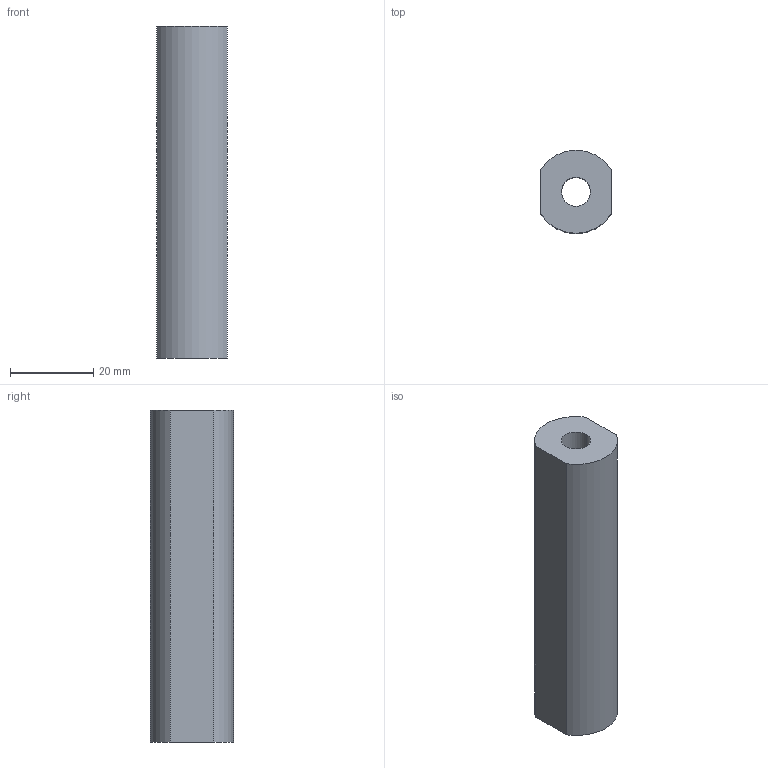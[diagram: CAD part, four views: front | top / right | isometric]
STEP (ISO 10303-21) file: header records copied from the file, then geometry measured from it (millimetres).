
FILE_DESCRIPTION (( 'STEP AP214' ), '1' );
FILE_NAME ('FGDT 80.step', '2017-04-05T07:36:58', ( '' ), ( '' ), 'SwSTEP 2.0', 'SolidWorks 2015', '' );
FILE_SCHEMA (( 'AUTOMOTIVE_DESIGN' ));
Length unit declared in the file: millimetre
Products named in the file (1): FGDT 80
Bounding box: 17 x 20 x 80 mm (x, y, z)
Volume: 20341.2 mm3; surface area: 7204.7 mm2
Topology: 1 solids, 1 shells, 8 faces, 18 edges, 12 vertices
Faces by surface type: cylinder 4, plane 4
Entity records: 268 total; most frequent: DIRECTION 44, CARTESIAN_POINT 39, ORIENTED_EDGE 36, EDGE_CURVE 18, AXIS2_PLACEMENT_3D 17, VERTEX_POINT 12, LINE 10, VECTOR 10
